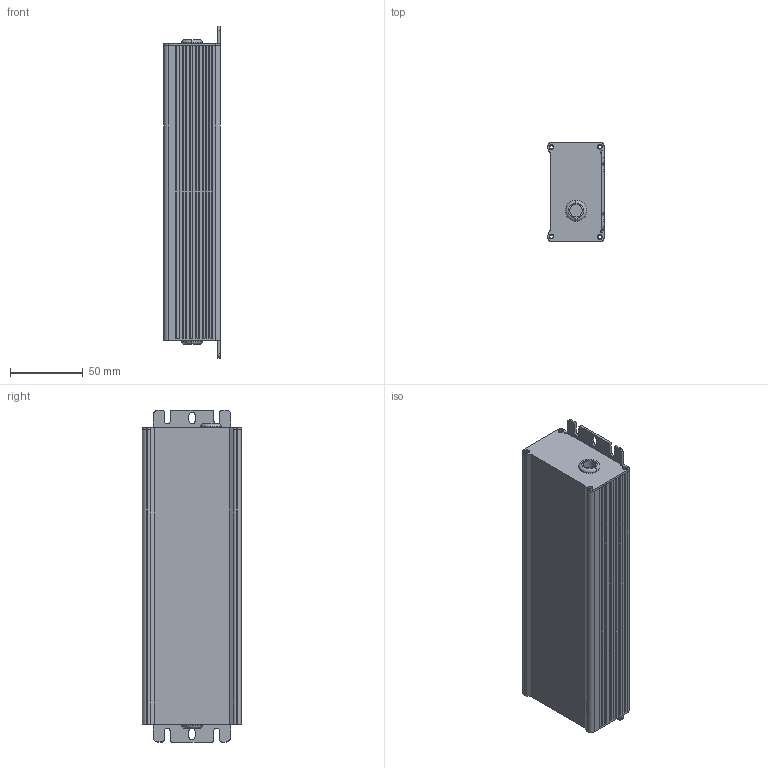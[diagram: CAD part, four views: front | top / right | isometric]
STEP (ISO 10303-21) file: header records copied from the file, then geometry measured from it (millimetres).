
FILE_DESCRIPTION(('Creo Elements/Direct Modeling STEP Export'),'2;1');
FILE_NAME('HLG-185-C-DTYPE.stp','2016-11-04T13:22:09',(''),(''),'PTC Creo Elements/Direct Modeling STEP processor for AP214 (Solid Model)','PTC Creo Elements/Direct Modeling 19.0 09-May-2014 (C) Parametric Technology GmbH','');
FILE_SCHEMA(('AUTOMOTIVE_DESIGN { 1 0 10303 214 1 1 1 1 }'));
Length unit declared in the file: millimetre
Products named in the file (4): CASE_PRT.PRT.1; HLG-240-A_1_ASM.ASM; HLG-240-A_STP.ASM; HLG-240-C.stp
Assembly tree (3 placements, depth 4):
  HLG-240-C.stp
    HLG-240-A_STP.ASM
      HLG-240-A_1_ASM.ASM
        CASE_PRT.PRT.1
Bounding box: 38.74 x 68.05 x 228 mm (x, y, z)
Volume: 95992.7 mm3; surface area: 103873 mm2
Topology: 1 solids, 1 shells, 229 faces, 680 edges, 443 vertices
Faces by surface type: plane 144, cylinder 77, torus 8
Entity records: 9461 total; most frequent: ORIENTED_EDGE 1360, CARTESIAN_POINT 1352, DIRECTION 1250, EDGE_CURVE 680, VECTOR 480, LINE 480, VERTEX_POINT 443, AXIS2_PLACEMENT_3D 385
